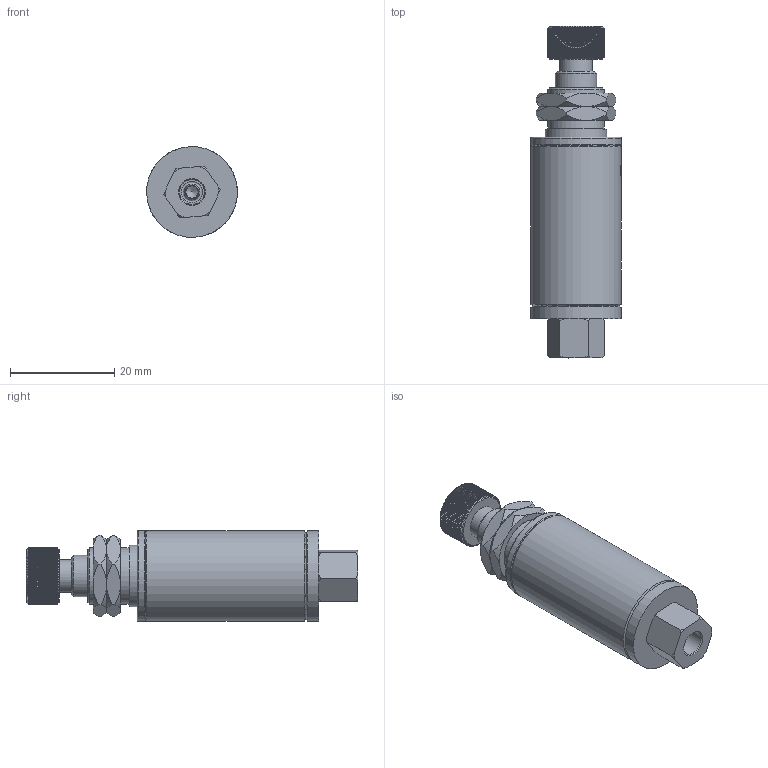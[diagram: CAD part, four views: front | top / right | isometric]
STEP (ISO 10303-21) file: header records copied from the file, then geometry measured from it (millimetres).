
FILE_DESCRIPTION((''),'2;1');
FILE_NAME('F:\AirCom-Produktdokumentation\Druckregler\MAR\CAD\CAD AirCom\3D\B-MAR-1NR.stp','2008-10-01T16:11:48',('Frank Schroers'),(''),'Autodesk Inventor 2008','Autodesk Inventor 2008','');
FILE_SCHEMA(('AUTOMOTIVE_DESIGN { 1 0 10303 214 1 1 1 1 }'));
Length unit declared in the file: millimetre
Products named in the file (6): B-MAR-1; B2-MAR-Verstellung; B-MAR-Gehaeuse; B-MAR-Verschluss1; B-MAR-Mutter; B-MAR-Verschluss2
Assembly tree (6 placements, depth 2):
  B-MAR-1
    B2-MAR-Verstellung
    B-MAR-Gehaeuse
    B-MAR-Verschluss1
    B-MAR-Mutter  x2
    B-MAR-Verschluss2
Bounding box: 17.43 x 63.75 x 17.43 mm (x, y, z)
Volume: 6801.1 mm3; surface area: 7513.8 mm2
Topology: 6 solids, 6 shells, 540 faces, 1480 edges, 978 vertices
Faces by surface type: plane 294, cylinder 162, cone 58, bspline 23, torus 3
Full cylindrical faces by diameter (mm): 2.28 x1, 2.359 x1, 3.168 x1, 3.65 x1, 4.182 x1, 4.2 x1, 4.753 x1, 5.014 x1, 6.337 x2, 6.603 x1, 7.908 x1, 7.921 x3, 9.505 x1, 10.773 x1, 11 x2, 11.736 x1, 12.42 x1, 14.271 x1, 14.321 x1, 14.702 x1, 15.285 x1, 15.356 x1, 15.69 x1, 17.414 x2, 17.427 x1
Entity records: 23421 total; most frequent: CARTESIAN_POINT 11773, ORIENTED_EDGE 2664, DIRECTION 2157, EDGE_CURVE 1332, VERTEX_POINT 913, AXIS2_PLACEMENT_3D 853, EDGE_LOOP 605, FACE_OUTER_BOUND 511
